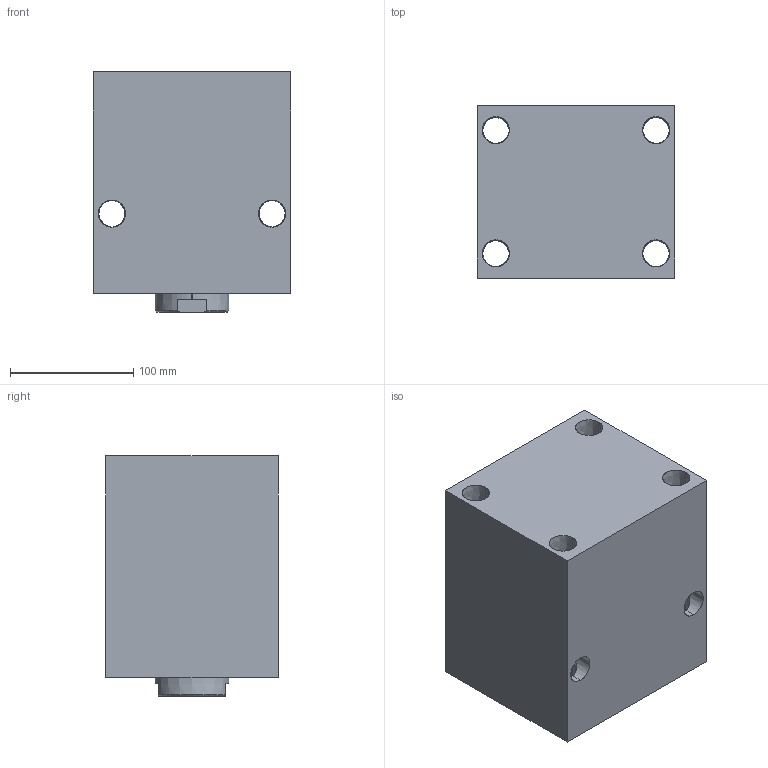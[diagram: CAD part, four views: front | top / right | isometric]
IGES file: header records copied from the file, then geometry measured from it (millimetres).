
Start section: SolidWorks IGES file using analytic representation for surfaces
Global section: file name: D:\karuppas\Clasp\3D model\Block cylinder B01C-Female thread\B01C-910F\Block cylinder B01C-910F.IGS; native system: SolidWorks 2017; preprocessor: SolidWorks 2017; author: pc; date: 220710.001028; units: millimetre
Bounding box: 160 x 140 x 195 mm (x, y, z)
Surface area: 271181.7 mm2 (no closed solid volume)
Topology: 0 solids, 0 shells, 346 faces, 5343 edges, 5337 vertices
Faces by surface type: bspline 294, revolution 52
